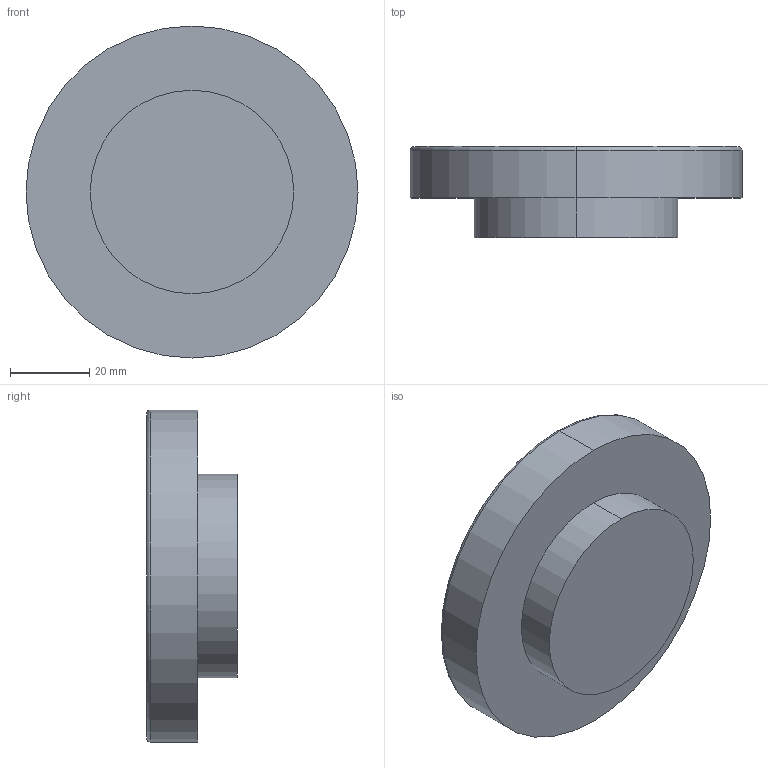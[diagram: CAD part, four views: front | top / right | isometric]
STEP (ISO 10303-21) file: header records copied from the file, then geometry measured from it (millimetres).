
FILE_DESCRIPTION (( 'STEP AP214' ), '1' );
FILE_NAME ('Adaptador para portavaso.STEP', '2019-05-12T01:55:57', ( '' ), ( '' ), 'SwSTEP 2.0', 'SolidWorks 2018', '' );
FILE_SCHEMA (( 'AUTOMOTIVE_DESIGN' ));
Length unit declared in the file: millimetre
Products named in the file (1): Adaptador para portavaso
Bounding box: 84 x 23 x 84 mm (x, y, z)
Volume: 44980.9 mm3; surface area: 18364.1 mm2
Topology: 1 solids, 1 shells, 14 faces, 26 edges, 16 vertices
Faces by surface type: cylinder 6, torus 4, plane 4
Entity records: 392 total; most frequent: DIRECTION 76, CARTESIAN_POINT 57, ORIENTED_EDGE 52, AXIS2_PLACEMENT_3D 35, EDGE_CURVE 26, CIRCLE 20, EDGE_LOOP 16, VERTEX_POINT 16
